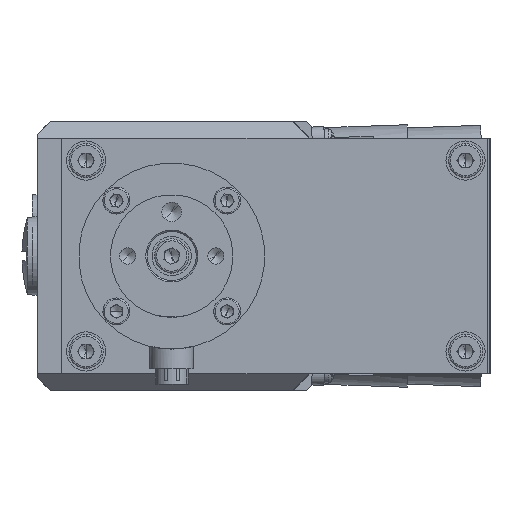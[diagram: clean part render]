
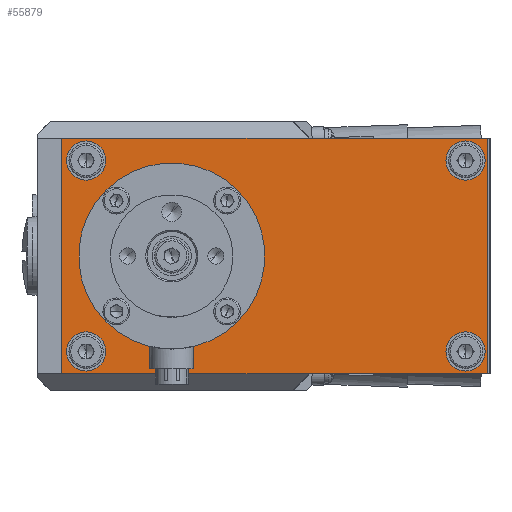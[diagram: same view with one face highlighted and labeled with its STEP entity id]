
A CAD part, left-side view. The second image highlights one B-rep face of the part: STEP entity #55879.
In plain terms, the highlighted planar face has unit normal (-1, 0, 0).
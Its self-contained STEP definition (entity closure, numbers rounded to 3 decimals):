
#20 = CARTESIAN_POINT ( 'NONE',  ( -106.001, -23.121, 2.182 ) ) ;
#250 = CIRCLE ( 'NONE', #7363, 4. ) ;
#463 = LINE ( 'NONE', #38840, #27885 ) ;
#903 = VERTEX_POINT ( 'NONE', #57468 ) ;
#946 = EDGE_CURVE ( 'NONE', #57417, #52306, #52013, .T. ) ;
#983 = VECTOR ( 'NONE', #36192, 1000. ) ;
#1057 = CARTESIAN_POINT ( 'NONE',  ( -106.001, 54.379, 6.182 ) ) ;
#1494 = DIRECTION ( 'NONE',  ( 0., 0., 1. ) ) ;
#1946 = AXIS2_PLACEMENT_3D ( 'NONE', #66438, #39979, #19215 ) ;
#2054 = FACE_OUTER_BOUND ( 'NONE', #53944, .T. ) ;
#3174 = AXIS2_PLACEMENT_3D ( 'NONE', #38157, #22541, #59362 ) ;
#3280 = AXIS2_PLACEMENT_3D ( 'NONE', #23963, #3842, #34690 ) ;
#3300 = EDGE_LOOP ( 'NONE', ( #24404, #51333 ) ) ;
#3508 = DIRECTION ( 'NONE',  ( -1., 0., 0. ) ) ;
#3842 = DIRECTION ( 'NONE',  ( -1., 0., 0. ) ) ;
#4298 = PLANE ( 'NONE',  #34797 ) ;
#5596 = ORIENTED_EDGE ( 'NONE', *, *, #47996, .F. ) ;
#5794 = ORIENTED_EDGE ( 'NONE', *, *, #13032, .F. ) ;
#7363 = AXIS2_PLACEMENT_3D ( 'NONE', #17024, #64293, #43405 ) ;
#7725 = CIRCLE ( 'NONE', #36460, 4. ) ;
#8099 = FACE_BOUND ( 'NONE', #63094, .T. ) ;
#8665 = EDGE_CURVE ( 'NONE', #45676, #65294, #30147, .T. ) ;
#8886 = AXIS2_PLACEMENT_3D ( 'NONE', #61201, #17895, #66746 ) ;
#9853 = CARTESIAN_POINT ( 'NONE',  ( -106.001, -27.621, -2.318 ) ) ;
#9971 = EDGE_LOOP ( 'NONE', ( #47979, #59324 ) ) ;
#11357 = DIRECTION ( 'NONE',  ( 0., 0., 1. ) ) ;
#11615 = AXIS2_PLACEMENT_3D ( 'NONE', #34369, #39299, #1494 ) ;
#11816 = CARTESIAN_POINT ( 'NONE',  ( -106.001, -23.121, 41.182 ) ) ;
#12135 = ORIENTED_EDGE ( 'NONE', *, *, #45034, .T. ) ;
#12218 = EDGE_CURVE ( 'NONE', #903, #18880, #44001, .T. ) ;
#13032 = EDGE_CURVE ( 'NONE', #16161, #59985, #45525, .T. ) ;
#15384 = CARTESIAN_POINT ( 'NONE',  ( -106.001, 59.379, 45.682 ) ) ;
#16077 = CIRCLE ( 'NONE', #53196, 4. ) ;
#16161 = VERTEX_POINT ( 'NONE', #67080 ) ;
#16371 = EDGE_CURVE ( 'NONE', #19226, #50226, #250, .T. ) ;
#17024 = CARTESIAN_POINT ( 'NONE',  ( -106.001, -23.121, 41.182 ) ) ;
#17895 = DIRECTION ( 'NONE',  ( -1., 0., 0. ) ) ;
#17972 = CARTESIAN_POINT ( 'NONE',  ( -106.001, 36.879, 37.182 ) ) ;
#18880 = VERTEX_POINT ( 'NONE', #22996 ) ;
#19215 = DIRECTION ( 'NONE',  ( 0., 0., 1. ) ) ;
#19226 = VERTEX_POINT ( 'NONE', #42334 ) ;
#19270 = EDGE_CURVE ( 'NONE', #50226, #19226, #7725, .T. ) ;
#20274 = DIRECTION ( 'NONE',  ( 0., 1., 0. ) ) ;
#21394 = DIRECTION ( 'NONE',  ( 0., 0., -1. ) ) ;
#22541 = DIRECTION ( 'NONE',  ( -1., 0., 0. ) ) ;
#22996 = CARTESIAN_POINT ( 'NONE',  ( -106.001, -23.121, 6.182 ) ) ;
#23963 = CARTESIAN_POINT ( 'NONE',  ( -106.001, 54.379, 41.182 ) ) ;
#24404 = ORIENTED_EDGE ( 'NONE', *, *, #37932, .F. ) ;
#24995 = CARTESIAN_POINT ( 'NONE',  ( -106.001, -27.621, 45.682 ) ) ;
#26626 = CARTESIAN_POINT ( 'NONE',  ( -106.001, -27.621, -2.318 ) ) ;
#26704 = DIRECTION ( 'NONE',  ( -1., 0., 0. ) ) ;
#27885 = VECTOR ( 'NONE', #49344, 1000. ) ;
#28006 = CIRCLE ( 'NONE', #3174, 4. ) ;
#29936 = DIRECTION ( 'NONE',  ( 0., 0., 1. ) ) ;
#30147 = CIRCLE ( 'NONE', #63464, 15.5 ) ;
#30828 = CIRCLE ( 'NONE', #1946, 15.5 ) ;
#31276 = VERTEX_POINT ( 'NONE', #44762 ) ;
#31462 = CARTESIAN_POINT ( 'NONE',  ( -106.001, 54.379, -1.818 ) ) ;
#32257 = CARTESIAN_POINT ( 'NONE',  ( -106.001, 54.379, 2.182 ) ) ;
#32877 = FACE_BOUND ( 'NONE', #57598, .T. ) ;
#33663 = ORIENTED_EDGE ( 'NONE', *, *, #8665, .F. ) ;
#33787 = VERTEX_POINT ( 'NONE', #61293 ) ;
#34369 = CARTESIAN_POINT ( 'NONE',  ( -106.001, 54.379, 41.182 ) ) ;
#34524 = ORIENTED_EDGE ( 'NONE', *, *, #946, .F. ) ;
#34690 = DIRECTION ( 'NONE',  ( 0., 0., 1. ) ) ;
#34791 = ORIENTED_EDGE ( 'NONE', *, *, #65555, .T. ) ;
#34797 = AXIS2_PLACEMENT_3D ( 'NONE', #9853, #51491, #62620 ) ;
#36192 = DIRECTION ( 'NONE',  ( 0., 0., 1. ) ) ;
#36460 = AXIS2_PLACEMENT_3D ( 'NONE', #11816, #37605, #11357 ) ;
#37148 = ORIENTED_EDGE ( 'NONE', *, *, #45748, .F. ) ;
#37329 = ORIENTED_EDGE ( 'NONE', *, *, #66270, .T. ) ;
#37605 = DIRECTION ( 'NONE',  ( -1., 0., 0. ) ) ;
#37932 = EDGE_CURVE ( 'NONE', #18880, #903, #16077, .T. ) ;
#38157 = CARTESIAN_POINT ( 'NONE',  ( -106.001, 54.379, 2.182 ) ) ;
#38840 = CARTESIAN_POINT ( 'NONE',  ( -106.001, -27.621, -2.318 ) ) ;
#39299 = DIRECTION ( 'NONE',  ( -1., 0., 0. ) ) ;
#39603 = FACE_BOUND ( 'NONE', #9971, .T. ) ;
#39979 = DIRECTION ( 'NONE',  ( -1., 0., 0. ) ) ;
#40017 = CARTESIAN_POINT ( 'NONE',  ( -106.001, 36.879, 21.682 ) ) ;
#40459 = ORIENTED_EDGE ( 'NONE', *, *, #42927, .T. ) ;
#40521 = FACE_BOUND ( 'NONE', #54673, .T. ) ;
#42334 = CARTESIAN_POINT ( 'NONE',  ( -106.001, -23.121, 45.182 ) ) ;
#42927 = EDGE_CURVE ( 'NONE', #33787, #65085, #463, .T. ) ;
#43026 = AXIS2_PLACEMENT_3D ( 'NONE', #32257, #26704, #63482 ) ;
#43405 = DIRECTION ( 'NONE',  ( 0., 0., 1. ) ) ;
#44001 = CIRCLE ( 'NONE', #8886, 4. ) ;
#44762 = CARTESIAN_POINT ( 'NONE',  ( -106.001, -27.621, 45.682 ) ) ;
#45034 = EDGE_CURVE ( 'NONE', #61488, #33787, #49241, .T. ) ;
#45525 = CIRCLE ( 'NONE', #11615, 4. ) ;
#45676 = VERTEX_POINT ( 'NONE', #54642 ) ;
#45748 = EDGE_CURVE ( 'NONE', #65294, #45676, #30828, .T. ) ;
#46529 = DIRECTION ( 'NONE',  ( 0., 0., 1. ) ) ;
#47582 = VECTOR ( 'NONE', #21394, 1000. ) ;
#47973 = CARTESIAN_POINT ( 'NONE',  ( -106.001, 59.379, -2.318 ) ) ;
#47979 = ORIENTED_EDGE ( 'NONE', *, *, #16371, .F. ) ;
#47996 = EDGE_CURVE ( 'NONE', #52306, #57417, #28006, .T. ) ;
#48479 = LINE ( 'NONE', #15384, #64270 ) ;
#49241 = LINE ( 'NONE', #47973, #47582 ) ;
#49344 = DIRECTION ( 'NONE',  ( 0., -1., 0. ) ) ;
#50226 = VERTEX_POINT ( 'NONE', #51212 ) ;
#51212 = CARTESIAN_POINT ( 'NONE',  ( -106.001, -23.121, 37.182 ) ) ;
#51333 = ORIENTED_EDGE ( 'NONE', *, *, #12218, .F. ) ;
#51491 = DIRECTION ( 'NONE',  ( 1., 0., 0. ) ) ;
#52013 = CIRCLE ( 'NONE', #43026, 4. ) ;
#52306 = VERTEX_POINT ( 'NONE', #31462 ) ;
#52736 = CARTESIAN_POINT ( 'NONE',  ( -106.001, 54.379, 45.182 ) ) ;
#53196 = AXIS2_PLACEMENT_3D ( 'NONE', #20, #3508, #46529 ) ;
#53944 = EDGE_LOOP ( 'NONE', ( #37329, #34791, #12135, #40459 ) ) ;
#54642 = CARTESIAN_POINT ( 'NONE',  ( -106.001, 36.879, 6.182 ) ) ;
#54673 = EDGE_LOOP ( 'NONE', ( #64323, #5794 ) ) ;
#55879 = ADVANCED_FACE ( 'NONE', ( #8099, #67961, #40521, #39603, #32877, #2054 ), #4298, .F. ) ;
#57417 = VERTEX_POINT ( 'NONE', #1057 ) ;
#57468 = CARTESIAN_POINT ( 'NONE',  ( -106.001, -23.121, -1.818 ) ) ;
#57576 = EDGE_CURVE ( 'NONE', #59985, #16161, #60386, .T. ) ;
#57598 = EDGE_LOOP ( 'NONE', ( #37148, #33663 ) ) ;
#59324 = ORIENTED_EDGE ( 'NONE', *, *, #19270, .F. ) ;
#59362 = DIRECTION ( 'NONE',  ( 0., 0., 1. ) ) ;
#59985 = VERTEX_POINT ( 'NONE', #52736 ) ;
#60386 = CIRCLE ( 'NONE', #3280, 4. ) ;
#61201 = CARTESIAN_POINT ( 'NONE',  ( -106.001, -23.121, 2.182 ) ) ;
#61293 = CARTESIAN_POINT ( 'NONE',  ( -106.001, 59.379, -2.318 ) ) ;
#61488 = VERTEX_POINT ( 'NONE', #67641 ) ;
#61852 = DIRECTION ( 'NONE',  ( -1., 0., 0. ) ) ;
#62620 = DIRECTION ( 'NONE',  ( 0., 0., -1. ) ) ;
#63094 = EDGE_LOOP ( 'NONE', ( #34524, #5596 ) ) ;
#63464 = AXIS2_PLACEMENT_3D ( 'NONE', #40017, #61852, #29936 ) ;
#63482 = DIRECTION ( 'NONE',  ( 0., 0., 1. ) ) ;
#64270 = VECTOR ( 'NONE', #20274, 1000. ) ;
#64293 = DIRECTION ( 'NONE',  ( -1., 0., 0. ) ) ;
#64323 = ORIENTED_EDGE ( 'NONE', *, *, #57576, .F. ) ;
#64983 = LINE ( 'NONE', #24995, #983 ) ;
#65085 = VERTEX_POINT ( 'NONE', #26626 ) ;
#65294 = VERTEX_POINT ( 'NONE', #17972 ) ;
#65555 = EDGE_CURVE ( 'NONE', #31276, #61488, #48479, .T. ) ;
#66270 = EDGE_CURVE ( 'NONE', #65085, #31276, #64983, .T. ) ;
#66438 = CARTESIAN_POINT ( 'NONE',  ( -106.001, 36.879, 21.682 ) ) ;
#66746 = DIRECTION ( 'NONE',  ( 0., 0., 1. ) ) ;
#67080 = CARTESIAN_POINT ( 'NONE',  ( -106.001, 54.379, 37.182 ) ) ;
#67641 = CARTESIAN_POINT ( 'NONE',  ( -106.001, 59.379, 45.682 ) ) ;
#67961 = FACE_BOUND ( 'NONE', #3300, .T. ) ;
